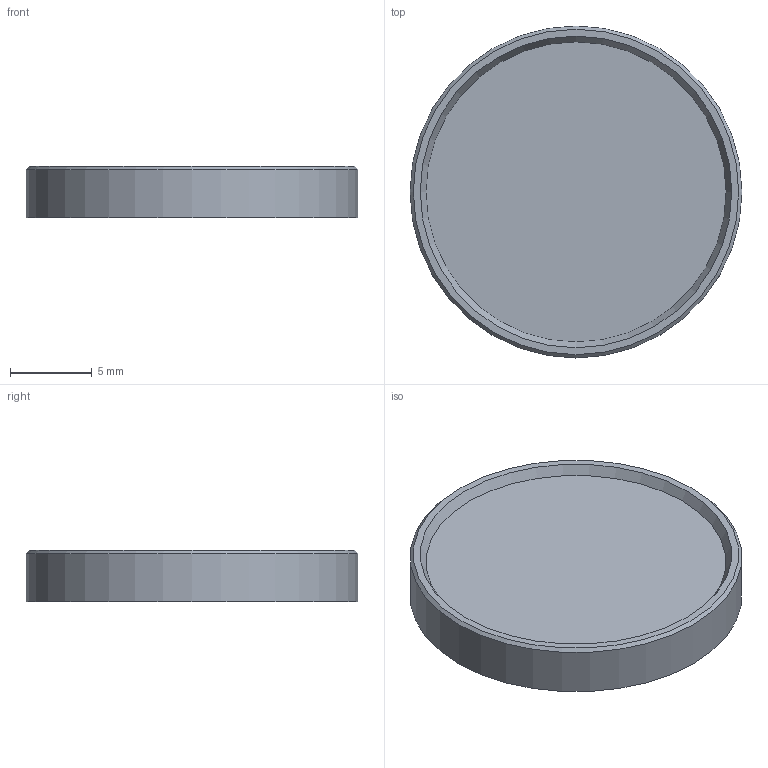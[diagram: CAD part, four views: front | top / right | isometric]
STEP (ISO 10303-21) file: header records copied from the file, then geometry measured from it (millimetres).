
FILE_DESCRIPTION(/* description */ (''),/* implementation_level */ '2;1');
FILE_NAME(/* name */ 'E:/05.Arbeit/05.JOHANNPLASTO/09.CAD-Service/00.General parts/01.Precious Plastic Coin/Precious Plastic-Coin v3.step',/* time_stamp */ '2021-06-02T14:35:14+02:00',/* author */ (''),/* organization */ (''),/* preprocessor_version */ 'ST-DEVELOPER v18.1',/* originating_system */ 'Autodesk Translation Framework v10.9.0.1377',/* authorisation */ '');
FILE_SCHEMA (('AUTOMOTIVE_DESIGN { 1 0 10303 214 3 1 1 }'));
Length unit declared in the file: millimetre
Products named in the file (1): Precious Plastic-Coin
Bounding box: 20.35 x 20.35 x 3.14 mm (x, y, z)
Volume: 854.3 mm3; surface area: 864.1 mm2
Topology: 1 solids, 1 shells, 6 faces, 8 edges, 5 vertices
Faces by surface type: plane 3, cone 2, cylinder 1
Full cylindrical faces by diameter (mm): 20.35 x1
Entity records: 162 total; most frequent: DIRECTION 27, CARTESIAN_POINT 20, ORIENTED_EDGE 16, AXIS2_PLACEMENT_3D 12, EDGE_CURVE 8, EDGE_LOOP 7, FACE_OUTER_BOUND 6, ADVANCED_FACE 6
